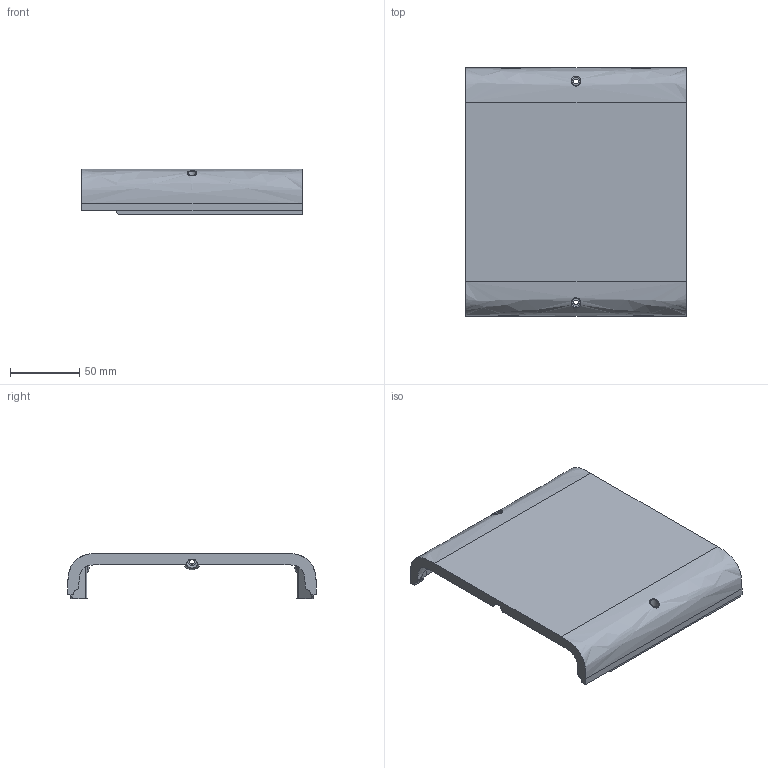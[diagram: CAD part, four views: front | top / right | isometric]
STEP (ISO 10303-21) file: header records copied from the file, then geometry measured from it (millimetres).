
FILE_DESCRIPTION(/* description */ (''),/* implementation_level */ '2;1');
FILE_NAME(/* name */ 'TOP SHELL BACK.step',/* time_stamp */ '2024-02-28T16:23:57Z',/* author */ (''),/* organization */ (''),/* preprocessor_version */ 'ST-DEVELOPER v20',/* originating_system */ 'Autodesk Translation Framework v12.20.1.177',/* authorisation */ '');
FILE_SCHEMA (('AUTOMOTIVE_DESIGN { 1 0 10303 214 3 1 1 }'));
Length unit declared in the file: millimetre
Products named in the file (1): TOP SHELL BACK
Bounding box: 160 x 180 x 32.8 mm (x, y, z)
Volume: 80339.9 mm3; surface area: 78059.9 mm2
Topology: 1 solids, 1 shells, 168 faces, 472 edges, 298 vertices
Faces by surface type: bspline 83, cylinder 43, plane 33, torus 9
Full cylindrical faces by diameter (mm): 3.5 x5, 6 x5
Entity records: 9301 total; most frequent: CARTESIAN_POINT 5598, ORIENTED_EDGE 924, DIRECTION 520, EDGE_CURVE 462, VERTEX_POINT 298, B_SPLINE_CURVE_WITH_KNOTS 223, AXIS2_PLACEMENT_3D 205, EDGE_LOOP 180
